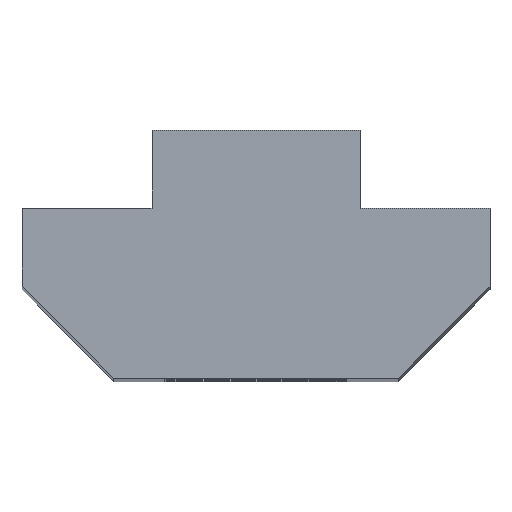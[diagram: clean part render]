
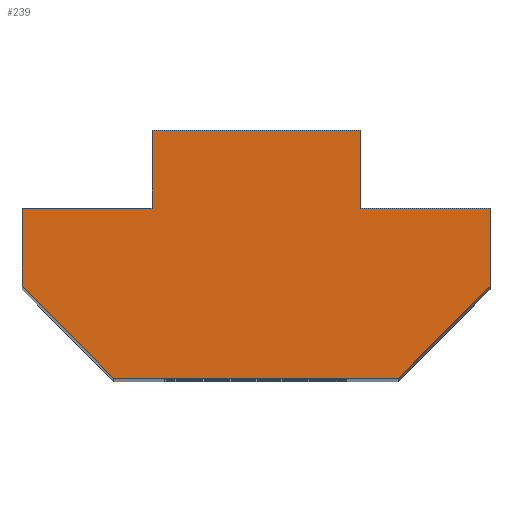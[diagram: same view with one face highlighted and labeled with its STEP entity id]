
A CAD part, top view. The second image highlights one B-rep face of the part: STEP entity #239.
In plain terms, the highlighted planar face has unit normal (0, 0, 1).
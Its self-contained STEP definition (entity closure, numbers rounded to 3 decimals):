
#3 = EDGE_CURVE ( 'NONE', #228, #421, #128, .T. ) ;
#9 = DIRECTION ( 'NONE',  ( 0., 1., 0. ) ) ;
#19 = LINE ( 'NONE', #623, #163 ) ;
#26 = EDGE_CURVE ( 'NONE', #705, #466, #248, .T. ) ;
#35 = DIRECTION ( 'NONE',  ( 0.707, -0.707, 0. ) ) ;
#46 = VECTOR ( 'NONE', #549, 1000. ) ;
#51 = AXIS2_PLACEMENT_3D ( 'NONE', #532, #317, #698 ) ;
#58 = LINE ( 'NONE', #126, #210 ) ;
#61 = VERTEX_POINT ( 'NONE', #99 ) ;
#67 = DIRECTION ( 'NONE',  ( 1., 0., 0. ) ) ;
#77 = VERTEX_POINT ( 'NONE', #262 ) ;
#79 = ORIENTED_EDGE ( 'NONE', *, *, #124, .T. ) ;
#82 = CARTESIAN_POINT ( 'NONE',  ( -11.723, -3., 80. ) ) ;
#88 = ORIENTED_EDGE ( 'NONE', *, *, #321, .T. ) ;
#96 = VERTEX_POINT ( 'NONE', #382 ) ;
#99 = CARTESIAN_POINT ( 'NONE',  ( -24.723, 3., 80. ) ) ;
#105 = VECTOR ( 'NONE', #595, 1000. ) ;
#114 = VECTOR ( 'NONE', #334, 1000. ) ;
#124 = EDGE_CURVE ( 'NONE', #77, #607, #351, .T. ) ;
#126 = CARTESIAN_POINT ( 'NONE',  ( -24.723, 0., 80. ) ) ;
#128 = LINE ( 'NONE', #649, #694 ) ;
#146 = ORIENTED_EDGE ( 'NONE', *, *, #718, .T. ) ;
#161 = DIRECTION ( 'NONE',  ( -1., 0., 0. ) ) ;
#163 = VECTOR ( 'NONE', #9, 1000. ) ;
#180 = VECTOR ( 'NONE', #67, 1000. ) ;
#183 = ORIENTED_EDGE ( 'NONE', *, *, #676, .T. ) ;
#192 = CARTESIAN_POINT ( 'NONE',  ( -11.723, 0., 80. ) ) ;
#210 = VECTOR ( 'NONE', #347, 1000. ) ;
#222 = CARTESIAN_POINT ( 'NONE',  ( -24.723, 0., 80. ) ) ;
#228 = VERTEX_POINT ( 'NONE', #560 ) ;
#236 = DIRECTION ( 'NONE',  ( 0., 1., 0. ) ) ;
#239 = ADVANCED_FACE ( 'NONE', ( #724 ), #254, .F. ) ;
#248 = LINE ( 'NONE', #311, #105 ) ;
#254 = PLANE ( 'NONE',  #51 ) ;
#262 = CARTESIAN_POINT ( 'NONE',  ( -15.258, -6.536, 80. ) ) ;
#272 = CARTESIAN_POINT ( 'NONE',  ( -16.723, 0., 80. ) ) ;
#311 = CARTESIAN_POINT ( 'NONE',  ( -29.723, 0., 80. ) ) ;
#317 = DIRECTION ( 'NONE',  ( 0., 0., -1. ) ) ;
#321 = EDGE_CURVE ( 'NONE', #359, #61, #557, .T. ) ;
#323 = LINE ( 'NONE', #461, #180 ) ;
#334 = DIRECTION ( 'NONE',  ( -1., 0., 0. ) ) ;
#347 = DIRECTION ( 'NONE',  ( 0., -1., 0. ) ) ;
#351 = LINE ( 'NONE', #604, #46 ) ;
#359 = VERTEX_POINT ( 'NONE', #508 ) ;
#370 = DIRECTION ( 'NONE',  ( 0., -1., 0. ) ) ;
#373 = VECTOR ( 'NONE', #161, 1000. ) ;
#380 = EDGE_CURVE ( 'NONE', #61, #705, #58, .T. ) ;
#382 = CARTESIAN_POINT ( 'NONE',  ( -16.723, 0., 80. ) ) ;
#397 = EDGE_CURVE ( 'NONE', #421, #77, #323, .T. ) ;
#403 = EDGE_LOOP ( 'NONE', ( #536, #531, #183, #431, #548, #79, #481, #146, #415, #88 ) ) ;
#411 = LINE ( 'NONE', #272, #114 ) ;
#413 = EDGE_CURVE ( 'NONE', #96, #359, #502, .T. ) ;
#415 = ORIENTED_EDGE ( 'NONE', *, *, #413, .T. ) ;
#421 = VERTEX_POINT ( 'NONE', #680 ) ;
#423 = EDGE_CURVE ( 'NONE', #607, #447, #19, .T. ) ;
#427 = LINE ( 'NONE', #533, #723 ) ;
#431 = ORIENTED_EDGE ( 'NONE', *, *, #3, .T. ) ;
#447 = VERTEX_POINT ( 'NONE', #192 ) ;
#454 = VECTOR ( 'NONE', #236, 1000. ) ;
#461 = CARTESIAN_POINT ( 'NONE',  ( -26.187, -6.536, 80. ) ) ;
#466 = VERTEX_POINT ( 'NONE', #576 ) ;
#481 = ORIENTED_EDGE ( 'NONE', *, *, #423, .T. ) ;
#502 = LINE ( 'NONE', #513, #454 ) ;
#508 = CARTESIAN_POINT ( 'NONE',  ( -16.723, 3., 80. ) ) ;
#513 = CARTESIAN_POINT ( 'NONE',  ( -16.723, 3., 80. ) ) ;
#531 = ORIENTED_EDGE ( 'NONE', *, *, #26, .T. ) ;
#532 = CARTESIAN_POINT ( 'NONE',  ( 0., 0., 80. ) ) ;
#533 = CARTESIAN_POINT ( 'NONE',  ( -29.723, 0., 80. ) ) ;
#536 = ORIENTED_EDGE ( 'NONE', *, *, #380, .T. ) ;
#548 = ORIENTED_EDGE ( 'NONE', *, *, #397, .T. ) ;
#549 = DIRECTION ( 'NONE',  ( 0.707, 0.707, 0. ) ) ;
#557 = LINE ( 'NONE', #679, #373 ) ;
#560 = CARTESIAN_POINT ( 'NONE',  ( -29.723, -3., 80. ) ) ;
#576 = CARTESIAN_POINT ( 'NONE',  ( -29.723, 0., 80. ) ) ;
#595 = DIRECTION ( 'NONE',  ( -1., 0., 0. ) ) ;
#604 = CARTESIAN_POINT ( 'NONE',  ( -11.723, -3., 80. ) ) ;
#607 = VERTEX_POINT ( 'NONE', #82 ) ;
#623 = CARTESIAN_POINT ( 'NONE',  ( -11.723, 0., 80. ) ) ;
#649 = CARTESIAN_POINT ( 'NONE',  ( -29.723, -3., 80. ) ) ;
#676 = EDGE_CURVE ( 'NONE', #466, #228, #427, .T. ) ;
#679 = CARTESIAN_POINT ( 'NONE',  ( -24.723, 3., 80. ) ) ;
#680 = CARTESIAN_POINT ( 'NONE',  ( -26.187, -6.536, 80. ) ) ;
#694 = VECTOR ( 'NONE', #35, 1000. ) ;
#698 = DIRECTION ( 'NONE',  ( -1., 0., 0. ) ) ;
#705 = VERTEX_POINT ( 'NONE', #222 ) ;
#718 = EDGE_CURVE ( 'NONE', #447, #96, #411, .T. ) ;
#723 = VECTOR ( 'NONE', #370, 1000. ) ;
#724 = FACE_OUTER_BOUND ( 'NONE', #403, .T. ) ;
